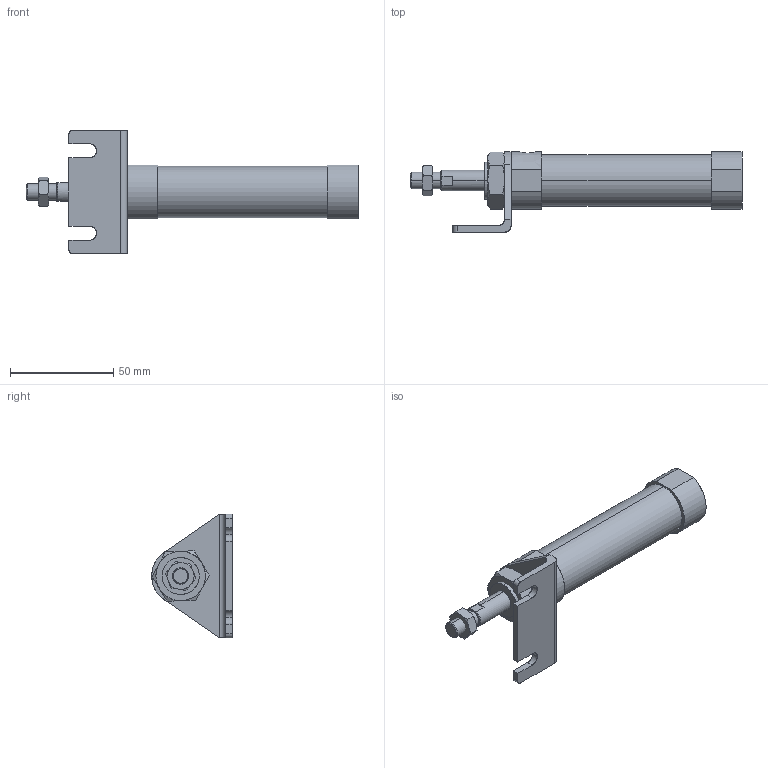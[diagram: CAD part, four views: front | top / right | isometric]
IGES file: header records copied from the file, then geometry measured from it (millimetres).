
Start section: SolidWorks IGES file using analytic representation for surfaces
Global section: file name: C:\Users\Toshiba\Desktop\JGND0-20-15-L.IGS; native system: SolidWorks 2014; preprocessor: SolidWorks 2014; author: Toshiba; date: 160804.100233; units: millimetre
Bounding box: 161 x 39 x 60 mm (x, y, z)
Surface area: 20874 mm2 (no closed solid volume)
Topology: 0 solids, 0 shells, 108 faces, 1708 edges, 1708 vertices
Faces by surface type: bspline 72, revolution 36
